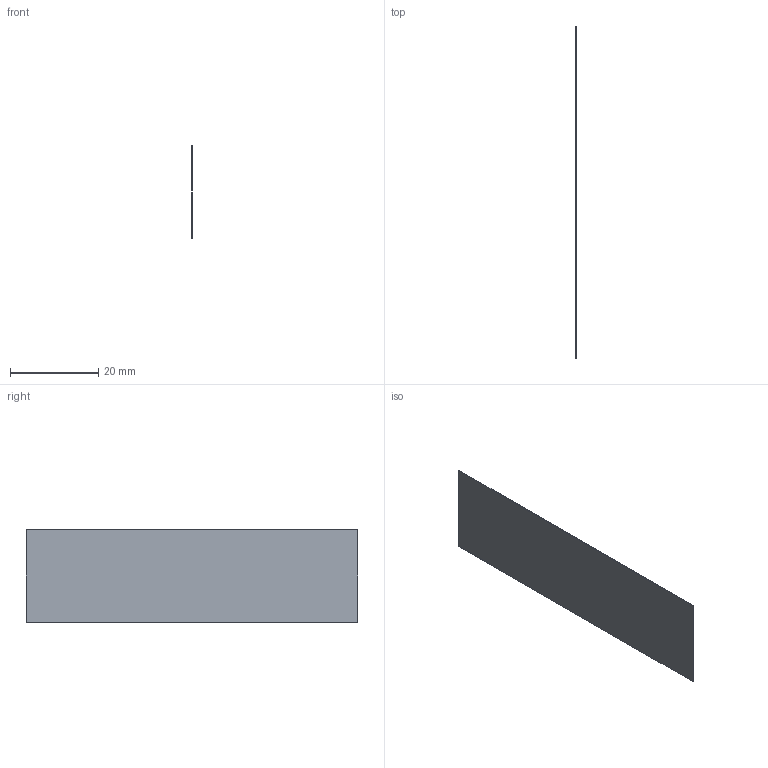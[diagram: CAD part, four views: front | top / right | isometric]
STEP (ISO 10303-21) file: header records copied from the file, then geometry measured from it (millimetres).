
FILE_DESCRIPTION(('Open CASCADE Model'),'2;1');
FILE_NAME('Open CASCADE Shape Model','2026-10-04T02:31:46',('Author'),( 'Open CASCADE'),'Open CASCADE STEP processor 8.0','Open CASCADE 8.0' ,'Unknown');
FILE_SCHEMA(('AUTOMOTIVE_DESIGN { 1 0 10303 214 1 1 1 1 }'));
Length unit declared in the file: millimetre
Products named in the file (1): Open CASCADE STEP translator 8.0 404
Bounding box: 0.15 x 75.08 x 21 mm (x, y, z)
Volume: 236.5 mm3; surface area: 3182.2 mm2
Topology: 1 solids, 1 shells, 6 faces, 12 edges, 8 vertices
Faces by surface type: plane 6
Entity records: 322 total; most frequent: CARTESIAN_POINT 51, DIRECTION 50, LINE 36, VECTOR 36, ORIENTED_EDGE 24, PCURVE 24, DEFINITIONAL_REPRESENTATION 24, EDGE_CURVE 12
